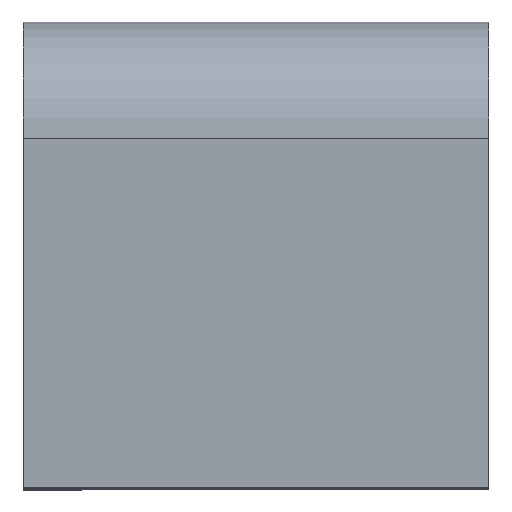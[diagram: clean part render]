
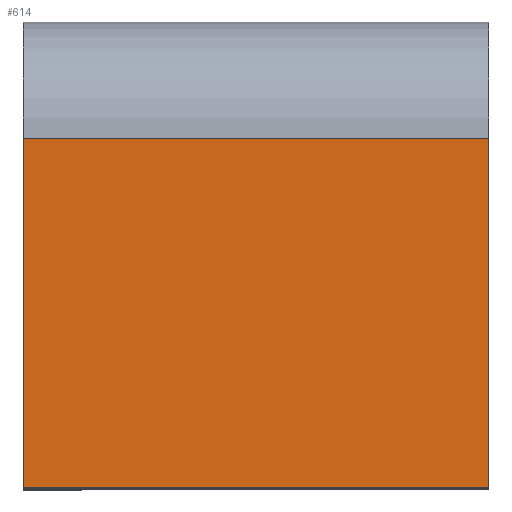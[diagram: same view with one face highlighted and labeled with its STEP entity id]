
A CAD part, top view. The second image highlights one B-rep face of the part: STEP entity #614.
In plain terms, the highlighted planar face has unit normal (0, 0, 1).
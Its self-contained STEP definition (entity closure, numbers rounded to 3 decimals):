
#76=FACE_OUTER_BOUND('',#114,.T.);
#114=EDGE_LOOP('',(#555,#556,#557,#558));
#137=LINE('',#893,#205);
#177=LINE('',#994,#245);
#179=LINE('',#1002,#247);
#182=LINE('',#1014,#250);
#205=VECTOR('',#715,10.);
#245=VECTOR('',#811,10.);
#247=VECTOR('',#821,10.);
#250=VECTOR('',#840,10.);
#269=VERTEX_POINT('',#890);
#270=VERTEX_POINT('',#892);
#303=VERTEX_POINT('',#993);
#305=VERTEX_POINT('',#1000);
#329=EDGE_CURVE('',#269,#270,#137,.T.);
#381=EDGE_CURVE('',#270,#303,#177,.T.);
#386=EDGE_CURVE('',#303,#305,#179,.T.);
#390=EDGE_CURVE('',#269,#305,#182,.T.);
#555=ORIENTED_EDGE('',*,*,#386,.F.);
#556=ORIENTED_EDGE('',*,*,#381,.F.);
#557=ORIENTED_EDGE('',*,*,#329,.F.);
#558=ORIENTED_EDGE('',*,*,#390,.T.);
#582=PLANE('',#676);
#614=ADVANCED_FACE('',(#76),#582,.T.);
#676=AXIS2_PLACEMENT_3D('',#1015,#841,#842);
#715=DIRECTION('',(-1.,0.,0.));
#811=DIRECTION('',(0.,1.,0.));
#821=DIRECTION('',(1.,0.,0.));
#840=DIRECTION('',(0.,1.,0.));
#841=DIRECTION('center_axis',(0.,0.,1.));
#842=DIRECTION('ref_axis',(1.,0.,0.));
#890=CARTESIAN_POINT('',(325.183,0.,-272.933));
#892=CARTESIAN_POINT('',(305.183,0.,-272.933));
#893=CARTESIAN_POINT('',(325.183,0.,-272.933));
#993=CARTESIAN_POINT('',(305.183,15.,-272.933));
#994=CARTESIAN_POINT('',(305.183,0.,-272.933));
#1000=CARTESIAN_POINT('',(325.183,15.,-272.933));
#1002=CARTESIAN_POINT('',(310.183,15.,-272.933));
#1014=CARTESIAN_POINT('',(325.183,0.,-272.933));
#1015=CARTESIAN_POINT('Origin',(305.183,0.,-272.933));
